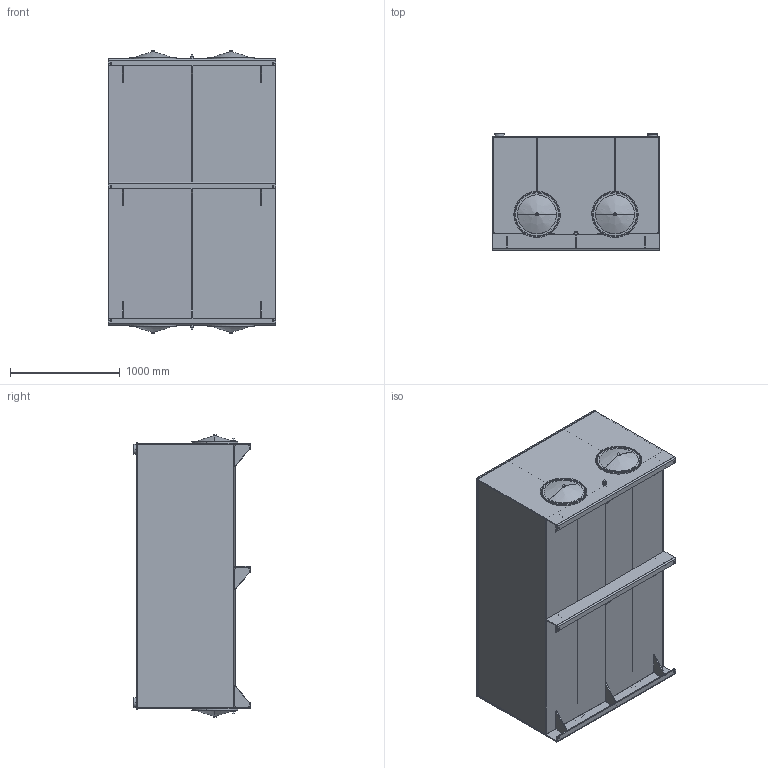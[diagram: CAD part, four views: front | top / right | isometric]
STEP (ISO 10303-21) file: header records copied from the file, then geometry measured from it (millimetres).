
FILE_DESCRIPTION (( 'STEP AP214' ), '1' );
FILE_NAME ('TJ-600.STEP', '2026-04-22T13:48:41', ( '' ), ( '' ), 'SwSTEP 2.0', 'SolidWorks 2026', '' );
FILE_SCHEMA (( 'AUTOMOTIVE_DESIGN' ));
Length unit declared in the file: inch
Products named in the file (19): TJ-600-EB; CRUSH WASHER; TJ-600-GST-2; TJ-600-EA; TJ-600-LD; 16.00 GASKET; TJ-600-BFL; 16.00 END COVER; TJ-600-GST-1; TJ-600; FILLER RISER; TJ-600-FS; 0.750 NPT PLUG; 0.750 NPT HALF COUPLING 3000#; 0.625 - 11 HEX BOLT; TJ-600-BDYA; 0.625 - 11 BAFFLE NUT_Carbon Steel Baffle Nut; TJ-600-BDYB; 16in END COVER-ASM_CARBON STEEL 16in END COVER ASM
Assembly tree (33 placements, depth 3):
  TJ-600
    TJ-600-BDYB  x2
    TJ-600-BDYA
    TJ-600-EA
    TJ-600-EB
    TJ-600-BFL  x2
    TJ-600-LD
    TJ-600-FS
    TJ-600-GST-1  x6
    TJ-600-GST-2  x3
    0.750 NPT HALF COUPLING 3000#  x2
    0.750 NPT PLUG  x2
    FILLER RISER  x2
    16in END COVER-ASM_CARBON STEEL 16in END COVER ASM  x4
      16.00 END COVER
      16.00 GASKET
      0.625 - 11 HEX BOLT
      0.625 - 11 BAFFLE NUT_Carbon Steel Baffle Nut
      CRUSH WASHER
Bounding box: 1524 x 1066.67 x 2579.58 mm (x, y, z)
Volume: 138604734.4 mm3; surface area: 40081246.5 mm2
Topology: 44 solids, 44 shells, 516 faces, 1194 edges, 784 vertices
Faces by surface type: plane 299, cylinder 193, bspline 16, cone 4, torus 4
Entity records: 7910 total; most frequent: DIRECTION 1329, CARTESIAN_POINT 1277, ORIENTED_EDGE 1138, EDGE_CURVE 569, AXIS2_PLACEMENT_3D 490, VERTEX_POINT 368, LINE 349, VECTOR 349
